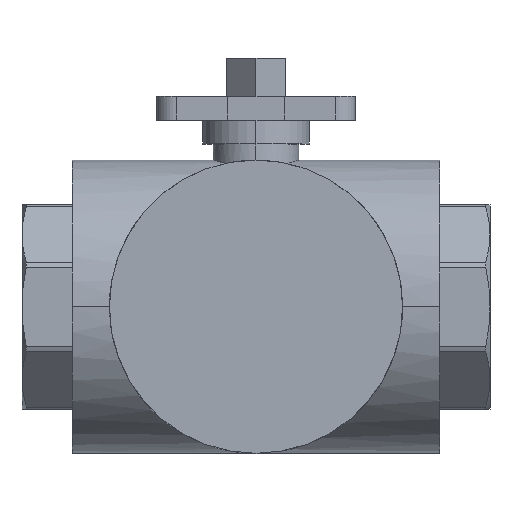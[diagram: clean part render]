
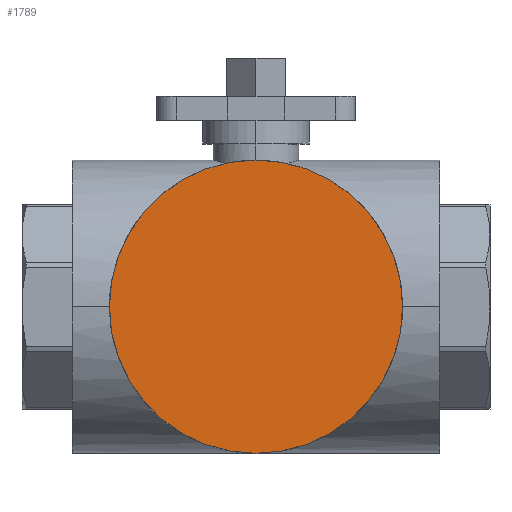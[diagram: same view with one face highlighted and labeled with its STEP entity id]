
A CAD part, top view. The second image highlights one B-rep face of the part: STEP entity #1789.
In plain terms, the highlighted planar face has unit normal (0, 0, 1).
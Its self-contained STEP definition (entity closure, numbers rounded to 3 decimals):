
#303 = DIRECTION ( 'NONE',  ( 0., 0., -1. ) ) ;
#401 = AXIS2_PLACEMENT_3D ( 'NONE', #2826, #303, #3277 ) ;
#537 = ORIENTED_EDGE ( 'NONE', *, *, #709, .T. ) ;
#709 = EDGE_CURVE ( 'NONE', #3725, #3174, #4256, .T. ) ;
#725 = CARTESIAN_POINT ( 'NONE',  ( -49.5, 0., 49.5 ) ) ;
#762 = AXIS2_PLACEMENT_3D ( 'NONE', #909, #3880, #1343 ) ;
#909 = CARTESIAN_POINT ( 'NONE',  ( 0., 0., 49.5 ) ) ;
#1307 = CARTESIAN_POINT ( 'NONE',  ( 0., 0., 49.5 ) ) ;
#1343 = DIRECTION ( 'NONE',  ( 1., 0., 0. ) ) ;
#1389 = AXIS2_PLACEMENT_3D ( 'NONE', #1307, #4262, #1731 ) ;
#1451 = FACE_OUTER_BOUND ( 'NONE', #3608, .T. ) ;
#1695 = ORIENTED_EDGE ( 'NONE', *, *, #5183, .T. ) ;
#1731 = DIRECTION ( 'NONE',  ( 1., 0., 0. ) ) ;
#1789 = ADVANCED_FACE ( 'NONE', ( #1451 ), #2856, .F. ) ;
#2826 = CARTESIAN_POINT ( 'NONE',  ( 0., 49.5, 49.5 ) ) ;
#2856 = PLANE ( 'NONE',  #401 ) ;
#3174 = VERTEX_POINT ( 'NONE', #725 ) ;
#3277 = DIRECTION ( 'NONE',  ( -1., 0., 0. ) ) ;
#3608 = EDGE_LOOP ( 'NONE', ( #1695, #537 ) ) ;
#3725 = VERTEX_POINT ( 'NONE', #5139 ) ;
#3880 = DIRECTION ( 'NONE',  ( 0., 0., 1. ) ) ;
#4256 = CIRCLE ( 'NONE', #1389, 49.5 ) ;
#4262 = DIRECTION ( 'NONE',  ( 0., 0., 1. ) ) ;
#4884 = CIRCLE ( 'NONE', #762, 49.5 ) ;
#5139 = CARTESIAN_POINT ( 'NONE',  ( 49.5, 0., 49.5 ) ) ;
#5183 = EDGE_CURVE ( 'NONE', #3174, #3725, #4884, .T. ) ;
